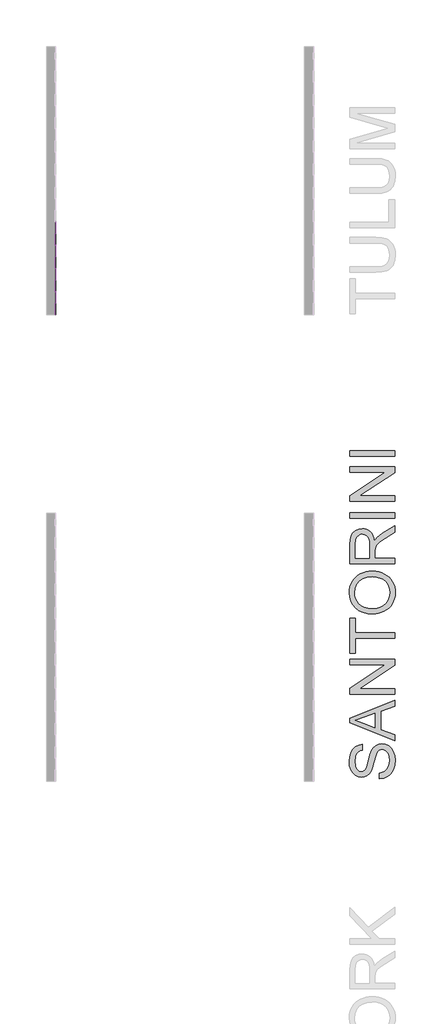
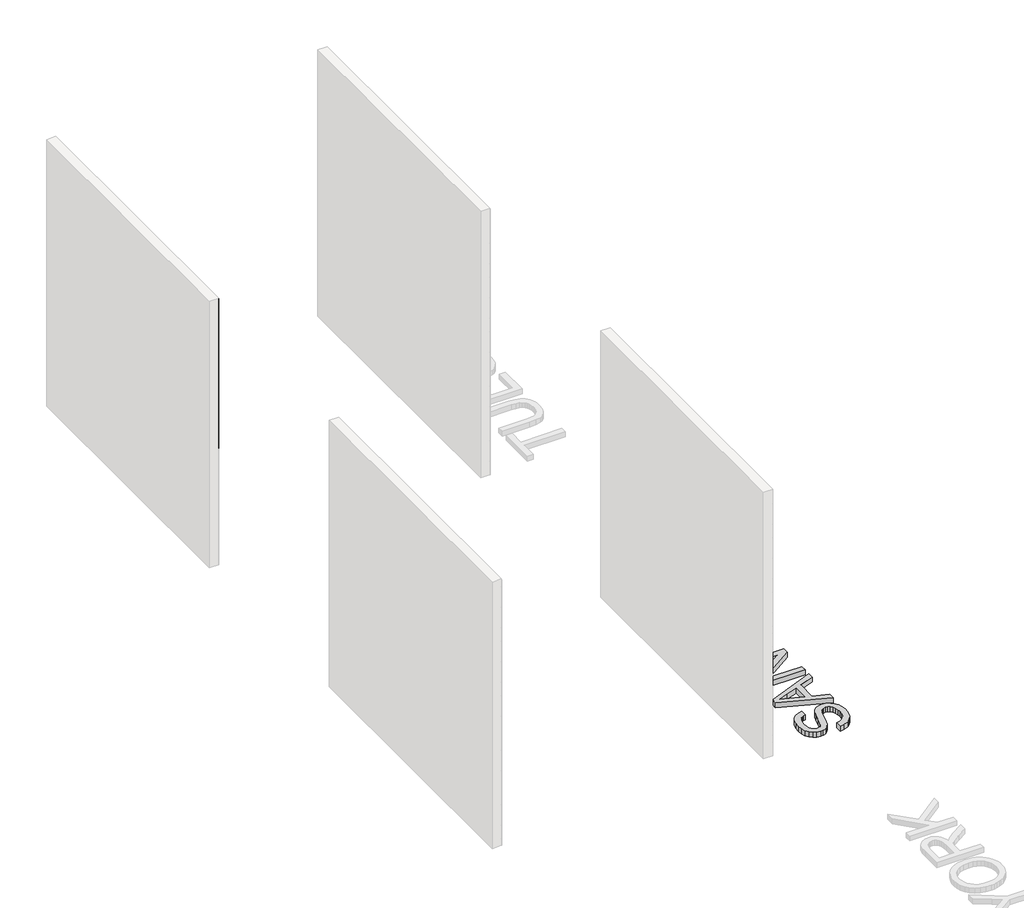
# One storey, part 31 of 45: 120 proxies.
"""IFC4 building model written with IfcOpenShell, lengths in millimetres."""

from ifc_helpers import new_model, si_unit, origin, origin_with_axes, place, context, project, spatial, polyline, outline, extrude, transform, mapped, element, save
from components import generic_models_ab0f2c30

model = new_model("IFC4")

# Units and contexts
model_context = context("Model", 3, world=origin())
ifc_project = project(units=[si_unit("LENGTHUNIT", "METRE", prefix="MILLI")], contexts=[model_context])

# Site, building, storey
site = spatial("IfcSite", under=ifc_project)
building = spatial("IfcBuilding", under=site)
storey = spatial("IfcBuildingStorey", under=building, Name="PORTOBELLO - SHOWROOM", Elevation=0.0)

# Proxies
placement = place(None, origin())
generic_models_shape = generic_models_ab0f2c30(model_context)
element("IfcBuildingElementProxy", 1, Name="PBSHOP - HORIZONTES SANTORINI 6,5X23 : SANTORINI", ObjectType="PBSHOP - HORIZONTES SANTORINI 6,5X23 : SANTORINI", at=placement, inside=storey, context=model_context, shape_type="MappedRepresentation", body=[
    mapped(generic_models_shape, transform((69111.8826867, 12130.0312463, 34.5), x_axis=(0.0, 0.0, 1.0), y_axis=(0.0, -1.0, 0.0), z_axis=(1.0, 0.0, 0.0))),
])
element("IfcBuildingElementProxy", 2, Name="PBSHOP - HORIZONTES SANTORINI 6,5X23 : SANTORINI", ObjectType="PBSHOP - HORIZONTES SANTORINI 6,5X23 : SANTORINI", at=placement, inside=storey, context=model_context, shape_type="MappedRepresentation", body=[
    mapped(generic_models_shape, transform((69111.8826867, 12364.0312463, 34.5), x_axis=(0.0, 0.0, 1.0), y_axis=(0.0, -1.0, 0.0), z_axis=(1.0, 0.0, 0.0))),
])
element("IfcBuildingElementProxy", 3, Name="PBSHOP - HORIZONTES SANTORINI 6,5X23 : SANTORINI", ObjectType="PBSHOP - HORIZONTES SANTORINI 6,5X23 : SANTORINI", at=placement, inside=storey, context=model_context, shape_type="MappedRepresentation", body=[
    mapped(generic_models_shape, transform((69111.8826867, 12598.0312463, 34.5), x_axis=(0.0, 0.0, 1.0), y_axis=(0.0, -1.0, 0.0), z_axis=(1.0, 0.0, 0.0))),
])
element("IfcBuildingElementProxy", 4, Name="PBSHOP - HORIZONTES SANTORINI 6,5X23 : SANTORINI", ObjectType="PBSHOP - HORIZONTES SANTORINI 6,5X23 : SANTORINI", at=placement, inside=storey, context=model_context, shape_type="MappedRepresentation", body=[
    mapped(generic_models_shape, transform((69111.8826867, 12832.0312463, 34.5), x_axis=(0.0, 0.0, 1.0), y_axis=(0.0, -1.0, 0.0), z_axis=(1.0, 0.0, 0.0))),
])
element("IfcBuildingElementProxy", 5, Name="PBSHOP - HORIZONTES SANTORINI 6,5X23 : SANTORINI", ObjectType="PBSHOP - HORIZONTES SANTORINI 6,5X23 : SANTORINI", at=placement, inside=storey, context=model_context, shape_type="MappedRepresentation", body=[
    mapped(generic_models_shape, transform((69111.8826867, 12130.0312463, 103.5), x_axis=(0.0, 0.0, 1.0), y_axis=(0.0, -1.0, 0.0), z_axis=(1.0, 0.0, 0.0))),
])
element("IfcBuildingElementProxy", 6, Name="PBSHOP - HORIZONTES SANTORINI 6,5X23 : SANTORINI", ObjectType="PBSHOP - HORIZONTES SANTORINI 6,5X23 : SANTORINI", at=placement, inside=storey, context=model_context, shape_type="MappedRepresentation", body=[
    mapped(generic_models_shape, transform((69111.8826867, 12364.0312463, 103.5), x_axis=(0.0, 0.0, 1.0), y_axis=(0.0, -1.0, 0.0), z_axis=(1.0, 0.0, 0.0))),
])
element("IfcBuildingElementProxy", 7, Name="PBSHOP - HORIZONTES SANTORINI 6,5X23 : SANTORINI", ObjectType="PBSHOP - HORIZONTES SANTORINI 6,5X23 : SANTORINI", at=placement, inside=storey, context=model_context, shape_type="MappedRepresentation", body=[
    mapped(generic_models_shape, transform((69111.8826867, 12598.0312463, 103.5), x_axis=(0.0, 0.0, 1.0), y_axis=(0.0, -1.0, 0.0), z_axis=(1.0, 0.0, 0.0))),
])
element("IfcBuildingElementProxy", 8, Name="PBSHOP - HORIZONTES SANTORINI 6,5X23 : SANTORINI", ObjectType="PBSHOP - HORIZONTES SANTORINI 6,5X23 : SANTORINI", at=placement, inside=storey, context=model_context, shape_type="MappedRepresentation", body=[
    mapped(generic_models_shape, transform((69111.8826867, 12832.0312463, 103.5), x_axis=(0.0, 0.0, 1.0), y_axis=(0.0, -1.0, 0.0), z_axis=(1.0, 0.0, 0.0))),
])
element("IfcBuildingElementProxy", 9, Name="PBSHOP - HORIZONTES SANTORINI 6,5X23 : SANTORINI", ObjectType="PBSHOP - HORIZONTES SANTORINI 6,5X23 : SANTORINI", at=placement, inside=storey, context=model_context, shape_type="MappedRepresentation", body=[
    mapped(generic_models_shape, transform((69111.8826867, 12130.0312463, 172.5), x_axis=(0.0, 0.0, 1.0), y_axis=(0.0, -1.0, 0.0), z_axis=(1.0, 0.0, 0.0))),
])
element("IfcBuildingElementProxy", 10, Name="PBSHOP - HORIZONTES SANTORINI 6,5X23 : SANTORINI", ObjectType="PBSHOP - HORIZONTES SANTORINI 6,5X23 : SANTORINI", at=placement, inside=storey, context=model_context, shape_type="MappedRepresentation", body=[
    mapped(generic_models_shape, transform((69111.8826867, 12364.0312463, 172.5), x_axis=(0.0, 0.0, 1.0), y_axis=(0.0, -1.0, 0.0), z_axis=(1.0, 0.0, 0.0))),
])
element("IfcBuildingElementProxy", 11, Name="PBSHOP - HORIZONTES SANTORINI 6,5X23 : SANTORINI", ObjectType="PBSHOP - HORIZONTES SANTORINI 6,5X23 : SANTORINI", at=placement, inside=storey, context=model_context, shape_type="MappedRepresentation", body=[
    mapped(generic_models_shape, transform((69111.8826867, 12598.0312463, 172.5), x_axis=(0.0, 0.0, 1.0), y_axis=(0.0, -1.0, 0.0), z_axis=(1.0, 0.0, 0.0))),
])
element("IfcBuildingElementProxy", 12, Name="PBSHOP - HORIZONTES SANTORINI 6,5X23 : SANTORINI", ObjectType="PBSHOP - HORIZONTES SANTORINI 6,5X23 : SANTORINI", at=placement, inside=storey, context=model_context, shape_type="MappedRepresentation", body=[
    mapped(generic_models_shape, transform((69111.8826867, 12832.0312463, 172.5), x_axis=(0.0, 0.0, 1.0), y_axis=(0.0, -1.0, 0.0), z_axis=(1.0, 0.0, 0.0))),
])
element("IfcBuildingElementProxy", 13, Name="PBSHOP - HORIZONTES SANTORINI 6,5X23 : SANTORINI", ObjectType="PBSHOP - HORIZONTES SANTORINI 6,5X23 : SANTORINI", at=placement, inside=storey, context=model_context, shape_type="MappedRepresentation", body=[
    mapped(generic_models_shape, transform((69111.8826867, 12130.0312463, 241.5), x_axis=(0.0, 0.0, 1.0), y_axis=(0.0, -1.0, 0.0), z_axis=(1.0, 0.0, 0.0))),
])
element("IfcBuildingElementProxy", 14, Name="PBSHOP - HORIZONTES SANTORINI 6,5X23 : SANTORINI", ObjectType="PBSHOP - HORIZONTES SANTORINI 6,5X23 : SANTORINI", at=placement, inside=storey, context=model_context, shape_type="MappedRepresentation", body=[
    mapped(generic_models_shape, transform((69111.8826867, 12364.0312463, 241.5), x_axis=(0.0, 0.0, 1.0), y_axis=(0.0, -1.0, 0.0), z_axis=(1.0, 0.0, 0.0))),
])
element("IfcBuildingElementProxy", 15, Name="PBSHOP - HORIZONTES SANTORINI 6,5X23 : SANTORINI", ObjectType="PBSHOP - HORIZONTES SANTORINI 6,5X23 : SANTORINI", at=placement, inside=storey, context=model_context, shape_type="MappedRepresentation", body=[
    mapped(generic_models_shape, transform((69111.8826867, 12598.0312463, 241.5), x_axis=(0.0, 0.0, 1.0), y_axis=(0.0, -1.0, 0.0), z_axis=(1.0, 0.0, 0.0))),
])
element("IfcBuildingElementProxy", 16, Name="PBSHOP - HORIZONTES SANTORINI 6,5X23 : SANTORINI", ObjectType="PBSHOP - HORIZONTES SANTORINI 6,5X23 : SANTORINI", at=placement, inside=storey, context=model_context, shape_type="MappedRepresentation", body=[
    mapped(generic_models_shape, transform((69111.8826867, 12832.0312463, 241.5), x_axis=(0.0, 0.0, 1.0), y_axis=(0.0, -1.0, 0.0), z_axis=(1.0, 0.0, 0.0))),
])
element("IfcBuildingElementProxy", 17, Name="PBSHOP - HORIZONTES SANTORINI 6,5X23 : SANTORINI", ObjectType="PBSHOP - HORIZONTES SANTORINI 6,5X23 : SANTORINI", at=placement, inside=storey, context=model_context, shape_type="MappedRepresentation", body=[
    mapped(generic_models_shape, transform((69111.8826867, 12130.0312463, 310.5), x_axis=(0.0, 0.0, 1.0), y_axis=(0.0, -1.0, 0.0), z_axis=(1.0, 0.0, 0.0))),
])
element("IfcBuildingElementProxy", 18, Name="PBSHOP - HORIZONTES SANTORINI 6,5X23 : SANTORINI", ObjectType="PBSHOP - HORIZONTES SANTORINI 6,5X23 : SANTORINI", at=placement, inside=storey, context=model_context, shape_type="MappedRepresentation", body=[
    mapped(generic_models_shape, transform((69111.8826867, 12364.0312463, 310.5), x_axis=(0.0, 0.0, 1.0), y_axis=(0.0, -1.0, 0.0), z_axis=(1.0, 0.0, 0.0))),
])
element("IfcBuildingElementProxy", 19, Name="PBSHOP - HORIZONTES SANTORINI 6,5X23 : SANTORINI", ObjectType="PBSHOP - HORIZONTES SANTORINI 6,5X23 : SANTORINI", at=placement, inside=storey, context=model_context, shape_type="MappedRepresentation", body=[
    mapped(generic_models_shape, transform((69111.8826867, 12598.0312463, 310.5), x_axis=(0.0, 0.0, 1.0), y_axis=(0.0, -1.0, 0.0), z_axis=(1.0, 0.0, 0.0))),
])
element("IfcBuildingElementProxy", 20, Name="PBSHOP - HORIZONTES SANTORINI 6,5X23 : SANTORINI", ObjectType="PBSHOP - HORIZONTES SANTORINI 6,5X23 : SANTORINI", at=placement, inside=storey, context=model_context, shape_type="MappedRepresentation", body=[
    mapped(generic_models_shape, transform((69111.8826867, 12832.0312463, 310.5), x_axis=(0.0, 0.0, 1.0), y_axis=(0.0, -1.0, 0.0), z_axis=(1.0, 0.0, 0.0))),
])
element("IfcBuildingElementProxy", 21, Name="PBSHOP - HORIZONTES SANTORINI 6,5X23 : SANTORINI", ObjectType="PBSHOP - HORIZONTES SANTORINI 6,5X23 : SANTORINI", at=placement, inside=storey, context=model_context, shape_type="MappedRepresentation", body=[
    mapped(generic_models_shape, transform((69111.8826867, 12130.0312463, 379.5), x_axis=(0.0, 0.0, 1.0), y_axis=(0.0, -1.0, 0.0), z_axis=(1.0, 0.0, 0.0))),
])
element("IfcBuildingElementProxy", 22, Name="PBSHOP - HORIZONTES SANTORINI 6,5X23 : SANTORINI", ObjectType="PBSHOP - HORIZONTES SANTORINI 6,5X23 : SANTORINI", at=placement, inside=storey, context=model_context, shape_type="MappedRepresentation", body=[
    mapped(generic_models_shape, transform((69111.8826867, 12364.0312463, 379.5), x_axis=(0.0, 0.0, 1.0), y_axis=(0.0, -1.0, 0.0), z_axis=(1.0, 0.0, 0.0))),
])
element("IfcBuildingElementProxy", 23, Name="PBSHOP - HORIZONTES SANTORINI 6,5X23 : SANTORINI", ObjectType="PBSHOP - HORIZONTES SANTORINI 6,5X23 : SANTORINI", at=placement, inside=storey, context=model_context, shape_type="MappedRepresentation", body=[
    mapped(generic_models_shape, transform((69111.8826867, 12598.0312463, 379.5), x_axis=(0.0, 0.0, 1.0), y_axis=(0.0, -1.0, 0.0), z_axis=(1.0, 0.0, 0.0))),
])
element("IfcBuildingElementProxy", 24, Name="PBSHOP - HORIZONTES SANTORINI 6,5X23 : SANTORINI", ObjectType="PBSHOP - HORIZONTES SANTORINI 6,5X23 : SANTORINI", at=placement, inside=storey, context=model_context, shape_type="MappedRepresentation", body=[
    mapped(generic_models_shape, transform((69111.8826867, 12832.0312463, 379.5), x_axis=(0.0, 0.0, 1.0), y_axis=(0.0, -1.0, 0.0), z_axis=(1.0, 0.0, 0.0))),
])
element("IfcBuildingElementProxy", 25, Name="PBSHOP - HORIZONTES SANTORINI 6,5X23 : SANTORINI", ObjectType="PBSHOP - HORIZONTES SANTORINI 6,5X23 : SANTORINI", at=placement, inside=storey, context=model_context, shape_type="MappedRepresentation", body=[
    mapped(generic_models_shape, transform((69111.8826867, 12130.0312463, 448.5), x_axis=(0.0, 0.0, 1.0), y_axis=(0.0, -1.0, 0.0), z_axis=(1.0, 0.0, 0.0))),
])
element("IfcBuildingElementProxy", 26, Name="PBSHOP - HORIZONTES SANTORINI 6,5X23 : SANTORINI", ObjectType="PBSHOP - HORIZONTES SANTORINI 6,5X23 : SANTORINI", at=placement, inside=storey, context=model_context, shape_type="MappedRepresentation", body=[
    mapped(generic_models_shape, transform((69111.8826867, 12364.0312463, 448.5), x_axis=(0.0, 0.0, 1.0), y_axis=(0.0, -1.0, 0.0), z_axis=(1.0, 0.0, 0.0))),
])
element("IfcBuildingElementProxy", 27, Name="PBSHOP - HORIZONTES SANTORINI 6,5X23 : SANTORINI", ObjectType="PBSHOP - HORIZONTES SANTORINI 6,5X23 : SANTORINI", at=placement, inside=storey, context=model_context, shape_type="MappedRepresentation", body=[
    mapped(generic_models_shape, transform((69111.8826867, 12598.0312463, 448.5), x_axis=(0.0, 0.0, 1.0), y_axis=(0.0, -1.0, 0.0), z_axis=(1.0, 0.0, 0.0))),
])
element("IfcBuildingElementProxy", 28, Name="PBSHOP - HORIZONTES SANTORINI 6,5X23 : SANTORINI", ObjectType="PBSHOP - HORIZONTES SANTORINI 6,5X23 : SANTORINI", at=placement, inside=storey, context=model_context, shape_type="MappedRepresentation", body=[
    mapped(generic_models_shape, transform((69111.8826867, 12832.0312463, 448.5), x_axis=(0.0, 0.0, 1.0), y_axis=(0.0, -1.0, 0.0), z_axis=(1.0, 0.0, 0.0))),
])
element("IfcBuildingElementProxy", 29, Name="PBSHOP - HORIZONTES SANTORINI 6,5X23 : SANTORINI", ObjectType="PBSHOP - HORIZONTES SANTORINI 6,5X23 : SANTORINI", at=placement, inside=storey, context=model_context, shape_type="MappedRepresentation", body=[
    mapped(generic_models_shape, transform((69111.8826867, 12130.0312463, 517.5), x_axis=(0.0, 0.0, 1.0), y_axis=(0.0, -1.0, 0.0), z_axis=(1.0, 0.0, 0.0))),
])
element("IfcBuildingElementProxy", 30, Name="PBSHOP - HORIZONTES TULUM 6,5X23 : TULUM AGAVE", ObjectType="PBSHOP - HORIZONTES TULUM 6,5X23 : TULUM AGAVE", at=placement, inside=storey, context=model_context, shape_type="MappedRepresentation", body=[
    mapped(generic_models_shape, transform((66511.8826867, 15654.0588567, 1138.5), x_axis=(0.0, 0.0, 1.0), y_axis=(0.0, -1.0, 0.0), z_axis=(1.0, 0.0, 0.0))),
])
element("IfcBuildingElementProxy", 31, Name="PBSHOP - HORIZONTES TULUM 6,5X23 : TULUM AGAVE", ObjectType="PBSHOP - HORIZONTES TULUM 6,5X23 : TULUM AGAVE", at=placement, inside=storey, context=model_context, shape_type="MappedRepresentation", body=[
    mapped(generic_models_shape, transform((66511.8826867, 15888.0588567, 1138.5), x_axis=(0.0, 0.0, 1.0), y_axis=(0.0, -1.0, 0.0), z_axis=(1.0, 0.0, 0.0))),
])
element("IfcBuildingElementProxy", 32, Name="PBSHOP - HORIZONTES TULUM 6,5X23 : TULUM AGAVE", ObjectType="PBSHOP - HORIZONTES TULUM 6,5X23 : TULUM AGAVE", at=placement, inside=storey, context=model_context, shape_type="MappedRepresentation", body=[
    mapped(generic_models_shape, transform((66511.8826867, 15186.0588567, 1207.5), x_axis=(0.0, 0.0, 1.0), y_axis=(0.0, -1.0, 0.0), z_axis=(1.0, 0.0, 0.0))),
])
element("IfcBuildingElementProxy", 33, Name="PBSHOP - HORIZONTES TULUM 6,5X23 : TULUM AGAVE", ObjectType="PBSHOP - HORIZONTES TULUM 6,5X23 : TULUM AGAVE", at=placement, inside=storey, context=model_context, shape_type="MappedRepresentation", body=[
    mapped(generic_models_shape, transform((66511.8826867, 15420.0588567, 1207.5), x_axis=(0.0, 0.0, 1.0), y_axis=(0.0, -1.0, 0.0), z_axis=(1.0, 0.0, 0.0))),
])
element("IfcBuildingElementProxy", 34, Name="PBSHOP - HORIZONTES TULUM 6,5X23 : TULUM AGAVE", ObjectType="PBSHOP - HORIZONTES TULUM 6,5X23 : TULUM AGAVE", at=placement, inside=storey, context=model_context, shape_type="MappedRepresentation", body=[
    mapped(generic_models_shape, transform((66511.8826867, 15654.0588567, 1207.5), x_axis=(0.0, 0.0, 1.0), y_axis=(0.0, -1.0, 0.0), z_axis=(1.0, 0.0, 0.0))),
])
element("IfcBuildingElementProxy", 35, Name="PBSHOP - HORIZONTES TULUM 6,5X23 : TULUM AGAVE", ObjectType="PBSHOP - HORIZONTES TULUM 6,5X23 : TULUM AGAVE", at=placement, inside=storey, context=model_context, shape_type="MappedRepresentation", body=[
    mapped(generic_models_shape, transform((66511.8826867, 15888.0588567, 1207.5), x_axis=(0.0, 0.0, 1.0), y_axis=(0.0, -1.0, 0.0), z_axis=(1.0, 0.0, 0.0))),
])
element("IfcBuildingElementProxy", 36, Name="PBSHOP - HORIZONTES TULUM 6,5X23 : TULUM AGAVE", ObjectType="PBSHOP - HORIZONTES TULUM 6,5X23 : TULUM AGAVE", at=placement, inside=storey, context=model_context, shape_type="MappedRepresentation", body=[
    mapped(generic_models_shape, transform((66511.8826867, 15186.0588567, 1276.5), x_axis=(0.0, 0.0, 1.0), y_axis=(0.0, -1.0, 0.0), z_axis=(1.0, 0.0, 0.0))),
])
element("IfcBuildingElementProxy", 37, Name="PBSHOP - HORIZONTES TULUM 6,5X23 : TULUM AGAVE", ObjectType="PBSHOP - HORIZONTES TULUM 6,5X23 : TULUM AGAVE", at=placement, inside=storey, context=model_context, shape_type="MappedRepresentation", body=[
    mapped(generic_models_shape, transform((66511.8826867, 15420.0588567, 1276.5), x_axis=(0.0, 0.0, 1.0), y_axis=(0.0, -1.0, 0.0), z_axis=(1.0, 0.0, 0.0))),
])
element("IfcBuildingElementProxy", 38, Name="PBSHOP - HORIZONTES TULUM 6,5X23 : TULUM AGAVE", ObjectType="PBSHOP - HORIZONTES TULUM 6,5X23 : TULUM AGAVE", at=placement, inside=storey, context=model_context, shape_type="MappedRepresentation", body=[
    mapped(generic_models_shape, transform((66511.8826867, 15654.0588567, 1276.5), x_axis=(0.0, 0.0, 1.0), y_axis=(0.0, -1.0, 0.0), z_axis=(1.0, 0.0, 0.0))),
])
element("IfcBuildingElementProxy", 39, Name="PBSHOP - HORIZONTES TULUM 6,5X23 : TULUM AGAVE", ObjectType="PBSHOP - HORIZONTES TULUM 6,5X23 : TULUM AGAVE", at=placement, inside=storey, context=model_context, shape_type="MappedRepresentation", body=[
    mapped(generic_models_shape, transform((66511.8826867, 15888.0588567, 1276.5), x_axis=(0.0, 0.0, 1.0), y_axis=(0.0, -1.0, 0.0), z_axis=(1.0, 0.0, 0.0))),
])
element("IfcBuildingElementProxy", 40, Name="PBSHOP - HORIZONTES TULUM 6,5X23 : TULUM AGAVE", ObjectType="PBSHOP - HORIZONTES TULUM 6,5X23 : TULUM AGAVE", at=placement, inside=storey, context=model_context, shape_type="MappedRepresentation", body=[
    mapped(generic_models_shape, transform((66511.8826867, 15186.0588567, 1345.5), x_axis=(0.0, 0.0, 1.0), y_axis=(0.0, -1.0, 0.0), z_axis=(1.0, 0.0, 0.0))),
])
element("IfcBuildingElementProxy", 41, Name="PBSHOP - HORIZONTES TULUM 6,5X23 : TULUM AGAVE", ObjectType="PBSHOP - HORIZONTES TULUM 6,5X23 : TULUM AGAVE", at=placement, inside=storey, context=model_context, shape_type="MappedRepresentation", body=[
    mapped(generic_models_shape, transform((66511.8826867, 15420.0588567, 1345.5), x_axis=(0.0, 0.0, 1.0), y_axis=(0.0, -1.0, 0.0), z_axis=(1.0, 0.0, 0.0))),
])
element("IfcBuildingElementProxy", 42, Name="PBSHOP - HORIZONTES TULUM 6,5X23 : TULUM AGAVE", ObjectType="PBSHOP - HORIZONTES TULUM 6,5X23 : TULUM AGAVE", at=placement, inside=storey, context=model_context, shape_type="MappedRepresentation", body=[
    mapped(generic_models_shape, transform((66511.8826867, 15654.0588567, 1345.5), x_axis=(0.0, 0.0, 1.0), y_axis=(0.0, -1.0, 0.0), z_axis=(1.0, 0.0, 0.0))),
])
element("IfcBuildingElementProxy", 43, Name="PBSHOP - HORIZONTES TULUM 6,5X23 : TULUM AGAVE", ObjectType="PBSHOP - HORIZONTES TULUM 6,5X23 : TULUM AGAVE", at=placement, inside=storey, context=model_context, shape_type="MappedRepresentation", body=[
    mapped(generic_models_shape, transform((66511.8826867, 15888.0588567, 1345.5), x_axis=(0.0, 0.0, 1.0), y_axis=(0.0, -1.0, 0.0), z_axis=(1.0, 0.0, 0.0))),
])
element("IfcBuildingElementProxy", 44, Name="PBSHOP - HORIZONTES TULUM 6,5X23 : TULUM AGAVE", ObjectType="PBSHOP - HORIZONTES TULUM 6,5X23 : TULUM AGAVE", at=placement, inside=storey, context=model_context, shape_type="MappedRepresentation", body=[
    mapped(generic_models_shape, transform((66511.8826867, 15186.0588567, 1414.5), x_axis=(0.0, 0.0, 1.0), y_axis=(0.0, -1.0, 0.0), z_axis=(1.0, 0.0, 0.0))),
])
element("IfcBuildingElementProxy", 45, Name="PBSHOP - HORIZONTES TULUM 6,5X23 : TULUM AGAVE", ObjectType="PBSHOP - HORIZONTES TULUM 6,5X23 : TULUM AGAVE", at=placement, inside=storey, context=model_context, shape_type="MappedRepresentation", body=[
    mapped(generic_models_shape, transform((66511.8826867, 15420.0588567, 1414.5), x_axis=(0.0, 0.0, 1.0), y_axis=(0.0, -1.0, 0.0), z_axis=(1.0, 0.0, 0.0))),
])
element("IfcBuildingElementProxy", 46, Name="PBSHOP - HORIZONTES TULUM 6,5X23 : TULUM AGAVE", ObjectType="PBSHOP - HORIZONTES TULUM 6,5X23 : TULUM AGAVE", at=placement, inside=storey, context=model_context, shape_type="MappedRepresentation", body=[
    mapped(generic_models_shape, transform((66511.8826867, 15654.0588567, 1414.5), x_axis=(0.0, 0.0, 1.0), y_axis=(0.0, -1.0, 0.0), z_axis=(1.0, 0.0, 0.0))),
])
element("IfcBuildingElementProxy", 47, Name="PBSHOP - HORIZONTES TULUM 6,5X23 : TULUM AGAVE", ObjectType="PBSHOP - HORIZONTES TULUM 6,5X23 : TULUM AGAVE", at=placement, inside=storey, context=model_context, shape_type="MappedRepresentation", body=[
    mapped(generic_models_shape, transform((66511.8826867, 15888.0588567, 1414.5), x_axis=(0.0, 0.0, 1.0), y_axis=(0.0, -1.0, 0.0), z_axis=(1.0, 0.0, 0.0))),
])
element("IfcBuildingElementProxy", 48, Name="PBSHOP - HORIZONTES TULUM 6,5X23 : TULUM AGAVE", ObjectType="PBSHOP - HORIZONTES TULUM 6,5X23 : TULUM AGAVE", at=placement, inside=storey, context=model_context, shape_type="MappedRepresentation", body=[
    mapped(generic_models_shape, transform((66511.8826867, 15186.0588567, 1483.5), x_axis=(0.0, 0.0, 1.0), y_axis=(0.0, -1.0, 0.0), z_axis=(1.0, 0.0, 0.0))),
])
element("IfcBuildingElementProxy", 49, Name="PBSHOP - HORIZONTES TULUM 6,5X23 : TULUM AGAVE", ObjectType="PBSHOP - HORIZONTES TULUM 6,5X23 : TULUM AGAVE", at=placement, inside=storey, context=model_context, shape_type="MappedRepresentation", body=[
    mapped(generic_models_shape, transform((66511.8826867, 15420.0588567, 1483.5), x_axis=(0.0, 0.0, 1.0), y_axis=(0.0, -1.0, 0.0), z_axis=(1.0, 0.0, 0.0))),
])
element("IfcBuildingElementProxy", 50, Name="PBSHOP - HORIZONTES TULUM 6,5X23 : TULUM AGAVE", ObjectType="PBSHOP - HORIZONTES TULUM 6,5X23 : TULUM AGAVE", at=placement, inside=storey, context=model_context, shape_type="MappedRepresentation", body=[
    mapped(generic_models_shape, transform((66511.8826867, 15654.0588567, 1483.5), x_axis=(0.0, 0.0, 1.0), y_axis=(0.0, -1.0, 0.0), z_axis=(1.0, 0.0, 0.0))),
])
element("IfcBuildingElementProxy", 51, Name="PBSHOP - HORIZONTES TULUM 6,5X23 : TULUM AGAVE", ObjectType="PBSHOP - HORIZONTES TULUM 6,5X23 : TULUM AGAVE", at=placement, inside=storey, context=model_context, shape_type="MappedRepresentation", body=[
    mapped(generic_models_shape, transform((66511.8826867, 15888.0588567, 1483.5), x_axis=(0.0, 0.0, 1.0), y_axis=(0.0, -1.0, 0.0), z_axis=(1.0, 0.0, 0.0))),
])
element("IfcBuildingElementProxy", 52, Name="PBSHOP - HORIZONTES TULUM 6,5X23 : TULUM AGAVE", ObjectType="PBSHOP - HORIZONTES TULUM 6,5X23 : TULUM AGAVE", at=placement, inside=storey, context=model_context, shape_type="MappedRepresentation", body=[
    mapped(generic_models_shape, transform((66511.8826867, 15186.0588567, 1552.5), x_axis=(0.0, 0.0, 1.0), y_axis=(0.0, -1.0, 0.0), z_axis=(1.0, 0.0, 0.0))),
])
element("IfcBuildingElementProxy", 53, Name="PBSHOP - HORIZONTES TULUM 6,5X23 : TULUM AGAVE", ObjectType="PBSHOP - HORIZONTES TULUM 6,5X23 : TULUM AGAVE", at=placement, inside=storey, context=model_context, shape_type="MappedRepresentation", body=[
    mapped(generic_models_shape, transform((66511.8826867, 15420.0588567, 1552.5), x_axis=(0.0, 0.0, 1.0), y_axis=(0.0, -1.0, 0.0), z_axis=(1.0, 0.0, 0.0))),
])
element("IfcBuildingElementProxy", 54, Name="PBSHOP - HORIZONTES TULUM 6,5X23 : TULUM AGAVE", ObjectType="PBSHOP - HORIZONTES TULUM 6,5X23 : TULUM AGAVE", at=placement, inside=storey, context=model_context, shape_type="MappedRepresentation", body=[
    mapped(generic_models_shape, transform((66511.8826867, 15654.0588567, 1552.5), x_axis=(0.0, 0.0, 1.0), y_axis=(0.0, -1.0, 0.0), z_axis=(1.0, 0.0, 0.0))),
])
element("IfcBuildingElementProxy", 55, Name="PBSHOP - HORIZONTES TULUM 6,5X23 : TULUM AGAVE", ObjectType="PBSHOP - HORIZONTES TULUM 6,5X23 : TULUM AGAVE", at=placement, inside=storey, context=model_context, shape_type="MappedRepresentation", body=[
    mapped(generic_models_shape, transform((66511.8826867, 15888.0588567, 1552.5), x_axis=(0.0, 0.0, 1.0), y_axis=(0.0, -1.0, 0.0), z_axis=(1.0, 0.0, 0.0))),
])
element("IfcBuildingElementProxy", 56, Name="PBSHOP - HORIZONTES TULUM 6,5X23 : TULUM AGAVE", ObjectType="PBSHOP - HORIZONTES TULUM 6,5X23 : TULUM AGAVE", at=placement, inside=storey, context=model_context, shape_type="MappedRepresentation", body=[
    mapped(generic_models_shape, transform((66511.8826867, 15186.0588567, 1621.5), x_axis=(0.0, 0.0, 1.0), y_axis=(0.0, -1.0, 0.0), z_axis=(1.0, 0.0, 0.0))),
])
element("IfcBuildingElementProxy", 57, Name="PBSHOP - HORIZONTES TULUM 6,5X23 : TULUM AGAVE", ObjectType="PBSHOP - HORIZONTES TULUM 6,5X23 : TULUM AGAVE", at=placement, inside=storey, context=model_context, shape_type="MappedRepresentation", body=[
    mapped(generic_models_shape, transform((66511.8826867, 15420.0588567, 1621.5), x_axis=(0.0, 0.0, 1.0), y_axis=(0.0, -1.0, 0.0), z_axis=(1.0, 0.0, 0.0))),
])
element("IfcBuildingElementProxy", 58, Name="PBSHOP - HORIZONTES TULUM 6,5X23 : TULUM AGAVE", ObjectType="PBSHOP - HORIZONTES TULUM 6,5X23 : TULUM AGAVE", at=placement, inside=storey, context=model_context, shape_type="MappedRepresentation", body=[
    mapped(generic_models_shape, transform((66511.8826867, 15654.0588567, 1621.5), x_axis=(0.0, 0.0, 1.0), y_axis=(0.0, -1.0, 0.0), z_axis=(1.0, 0.0, 0.0))),
])
element("IfcBuildingElementProxy", 59, Name="PBSHOP - HORIZONTES TULUM 6,5X23 : TULUM AGAVE", ObjectType="PBSHOP - HORIZONTES TULUM 6,5X23 : TULUM AGAVE", at=placement, inside=storey, context=model_context, shape_type="MappedRepresentation", body=[
    mapped(generic_models_shape, transform((66511.8826867, 15888.0588567, 1621.5), x_axis=(0.0, 0.0, 1.0), y_axis=(0.0, -1.0, 0.0), z_axis=(1.0, 0.0, 0.0))),
])
element("IfcBuildingElementProxy", 60, Name="PBSHOP - HORIZONTES TULUM 6,5X23 : TULUM AGAVE", ObjectType="PBSHOP - HORIZONTES TULUM 6,5X23 : TULUM AGAVE", at=placement, inside=storey, context=model_context, shape_type="MappedRepresentation", body=[
    mapped(generic_models_shape, transform((66511.8826867, 15186.0588567, 1690.5), x_axis=(0.0, 0.0, 1.0), y_axis=(0.0, -1.0, 0.0), z_axis=(1.0, 0.0, 0.0))),
])
element("IfcBuildingElementProxy", 61, Name="PBSHOP - HORIZONTES TULUM 6,5X23 : TULUM AGAVE", ObjectType="PBSHOP - HORIZONTES TULUM 6,5X23 : TULUM AGAVE", at=placement, inside=storey, context=model_context, shape_type="MappedRepresentation", body=[
    mapped(generic_models_shape, transform((66511.8826867, 15420.0588567, 1690.5), x_axis=(0.0, 0.0, 1.0), y_axis=(0.0, -1.0, 0.0), z_axis=(1.0, 0.0, 0.0))),
])
element("IfcBuildingElementProxy", 62, Name="PBSHOP - HORIZONTES TULUM 6,5X23 : TULUM AGAVE", ObjectType="PBSHOP - HORIZONTES TULUM 6,5X23 : TULUM AGAVE", at=placement, inside=storey, context=model_context, shape_type="MappedRepresentation", body=[
    mapped(generic_models_shape, transform((66511.8826867, 15654.0588567, 1690.5), x_axis=(0.0, 0.0, 1.0), y_axis=(0.0, -1.0, 0.0), z_axis=(1.0, 0.0, 0.0))),
])
element("IfcBuildingElementProxy", 63, Name="PBSHOP - HORIZONTES TULUM 6,5X23 : TULUM AGAVE", ObjectType="PBSHOP - HORIZONTES TULUM 6,5X23 : TULUM AGAVE", at=placement, inside=storey, context=model_context, shape_type="MappedRepresentation", body=[
    mapped(generic_models_shape, transform((66511.8826867, 15888.0588567, 1690.5), x_axis=(0.0, 0.0, 1.0), y_axis=(0.0, -1.0, 0.0), z_axis=(1.0, 0.0, 0.0))),
])
element("IfcBuildingElementProxy", 64, Name="PBSHOP - HORIZONTES TULUM 6,5X23 : TULUM AGAVE", ObjectType="PBSHOP - HORIZONTES TULUM 6,5X23 : TULUM AGAVE", at=placement, inside=storey, context=model_context, shape_type="MappedRepresentation", body=[
    mapped(generic_models_shape, transform((66511.8826867, 15186.0588567, 1759.5), x_axis=(0.0, 0.0, 1.0), y_axis=(0.0, -1.0, 0.0), z_axis=(1.0, 0.0, 0.0))),
])
element("IfcBuildingElementProxy", 65, Name="PBSHOP - HORIZONTES TULUM 6,5X23 : TULUM AGAVE", ObjectType="PBSHOP - HORIZONTES TULUM 6,5X23 : TULUM AGAVE", at=placement, inside=storey, context=model_context, shape_type="MappedRepresentation", body=[
    mapped(generic_models_shape, transform((66511.8826867, 15420.0588567, 1759.5), x_axis=(0.0, 0.0, 1.0), y_axis=(0.0, -1.0, 0.0), z_axis=(1.0, 0.0, 0.0))),
])
element("IfcBuildingElementProxy", 66, Name="PBSHOP - HORIZONTES TULUM 6,5X23 : TULUM AGAVE", ObjectType="PBSHOP - HORIZONTES TULUM 6,5X23 : TULUM AGAVE", at=placement, inside=storey, context=model_context, shape_type="MappedRepresentation", body=[
    mapped(generic_models_shape, transform((66511.8826867, 15654.0588567, 1759.5), x_axis=(0.0, 0.0, 1.0), y_axis=(0.0, -1.0, 0.0), z_axis=(1.0, 0.0, 0.0))),
])
element("IfcBuildingElementProxy", 67, Name="PBSHOP - HORIZONTES TULUM 6,5X23 : TULUM AGAVE", ObjectType="PBSHOP - HORIZONTES TULUM 6,5X23 : TULUM AGAVE", at=placement, inside=storey, context=model_context, shape_type="MappedRepresentation", body=[
    mapped(generic_models_shape, transform((66511.8826867, 15888.0588567, 1759.5), x_axis=(0.0, 0.0, 1.0), y_axis=(0.0, -1.0, 0.0), z_axis=(1.0, 0.0, 0.0))),
])
element("IfcBuildingElementProxy", 68, Name="PBSHOP - HORIZONTES TULUM 6,5X23 : TULUM AGAVE", ObjectType="PBSHOP - HORIZONTES TULUM 6,5X23 : TULUM AGAVE", at=placement, inside=storey, context=model_context, shape_type="MappedRepresentation", body=[
    mapped(generic_models_shape, transform((66511.8826867, 15186.0588567, 1828.5), x_axis=(0.0, 0.0, 1.0), y_axis=(0.0, -1.0, 0.0), z_axis=(1.0, 0.0, 0.0))),
])
element("IfcBuildingElementProxy", 69, Name="PBSHOP - HORIZONTES TULUM 6,5X23 : TULUM AGAVE", ObjectType="PBSHOP - HORIZONTES TULUM 6,5X23 : TULUM AGAVE", at=placement, inside=storey, context=model_context, shape_type="MappedRepresentation", body=[
    mapped(generic_models_shape, transform((66511.8826867, 15420.0588567, 1828.5), x_axis=(0.0, 0.0, 1.0), y_axis=(0.0, -1.0, 0.0), z_axis=(1.0, 0.0, 0.0))),
])
element("IfcBuildingElementProxy", 70, Name="PBSHOP - HORIZONTES TULUM 6,5X23 : TULUM AGAVE", ObjectType="PBSHOP - HORIZONTES TULUM 6,5X23 : TULUM AGAVE", at=placement, inside=storey, context=model_context, shape_type="MappedRepresentation", body=[
    mapped(generic_models_shape, transform((66511.8826867, 15654.0588567, 1828.5), x_axis=(0.0, 0.0, 1.0), y_axis=(0.0, -1.0, 0.0), z_axis=(1.0, 0.0, 0.0))),
])
element("IfcBuildingElementProxy", 71, Name="PBSHOP - HORIZONTES TULUM 6,5X23 : TULUM AGAVE", ObjectType="PBSHOP - HORIZONTES TULUM 6,5X23 : TULUM AGAVE", at=placement, inside=storey, context=model_context, shape_type="MappedRepresentation", body=[
    mapped(generic_models_shape, transform((66511.8826867, 15888.0588567, 1828.5), x_axis=(0.0, 0.0, 1.0), y_axis=(0.0, -1.0, 0.0), z_axis=(1.0, 0.0, 0.0))),
])
element("IfcBuildingElementProxy", 72, Name="PBSHOP - HORIZONTES TULUM 6,5X23 : TULUM AGAVE", ObjectType="PBSHOP - HORIZONTES TULUM 6,5X23 : TULUM AGAVE", at=placement, inside=storey, context=model_context, shape_type="MappedRepresentation", body=[
    mapped(generic_models_shape, transform((66511.8826867, 15186.0588567, 1897.5), x_axis=(0.0, 0.0, 1.0), y_axis=(0.0, -1.0, 0.0), z_axis=(1.0, 0.0, 0.0))),
])
element("IfcBuildingElementProxy", 73, Name="PBSHOP - HORIZONTES TULUM 6,5X23 : TULUM AGAVE", ObjectType="PBSHOP - HORIZONTES TULUM 6,5X23 : TULUM AGAVE", at=placement, inside=storey, context=model_context, shape_type="MappedRepresentation", body=[
    mapped(generic_models_shape, transform((66511.8826867, 15420.0588567, 1897.5), x_axis=(0.0, 0.0, 1.0), y_axis=(0.0, -1.0, 0.0), z_axis=(1.0, 0.0, 0.0))),
])
element("IfcBuildingElementProxy", 74, Name="PBSHOP - HORIZONTES TULUM 6,5X23 : TULUM AGAVE", ObjectType="PBSHOP - HORIZONTES TULUM 6,5X23 : TULUM AGAVE", at=placement, inside=storey, context=model_context, shape_type="MappedRepresentation", body=[
    mapped(generic_models_shape, transform((66511.8826867, 15654.0588567, 1897.5), x_axis=(0.0, 0.0, 1.0), y_axis=(0.0, -1.0, 0.0), z_axis=(1.0, 0.0, 0.0))),
])
element("IfcBuildingElementProxy", 75, Name="PBSHOP - HORIZONTES TULUM 6,5X23 : TULUM AGAVE", ObjectType="PBSHOP - HORIZONTES TULUM 6,5X23 : TULUM AGAVE", at=placement, inside=storey, context=model_context, shape_type="MappedRepresentation", body=[
    mapped(generic_models_shape, transform((66511.8826867, 15888.0588567, 1897.5), x_axis=(0.0, 0.0, 1.0), y_axis=(0.0, -1.0, 0.0), z_axis=(1.0, 0.0, 0.0))),
])
element("IfcBuildingElementProxy", 76, Name="PBSHOP - HORIZONTES TULUM 6,5X23 : TULUM AGAVE", ObjectType="PBSHOP - HORIZONTES TULUM 6,5X23 : TULUM AGAVE", at=placement, inside=storey, context=model_context, shape_type="MappedRepresentation", body=[
    mapped(generic_models_shape, transform((66511.8826867, 15186.0588567, 1966.5), x_axis=(0.0, 0.0, 1.0), y_axis=(0.0, -1.0, 0.0), z_axis=(1.0, 0.0, 0.0))),
])
element("IfcBuildingElementProxy", 77, Name="PBSHOP - HORIZONTES TULUM 6,5X23 : TULUM AGAVE", ObjectType="PBSHOP - HORIZONTES TULUM 6,5X23 : TULUM AGAVE", at=placement, inside=storey, context=model_context, shape_type="MappedRepresentation", body=[
    mapped(generic_models_shape, transform((66511.8826867, 15420.0588567, 1966.5), x_axis=(0.0, 0.0, 1.0), y_axis=(0.0, -1.0, 0.0), z_axis=(1.0, 0.0, 0.0))),
])
element("IfcBuildingElementProxy", 78, Name="PBSHOP - HORIZONTES TULUM 6,5X23 : TULUM AGAVE", ObjectType="PBSHOP - HORIZONTES TULUM 6,5X23 : TULUM AGAVE", at=placement, inside=storey, context=model_context, shape_type="MappedRepresentation", body=[
    mapped(generic_models_shape, transform((66511.8826867, 15654.0588567, 1966.5), x_axis=(0.0, 0.0, 1.0), y_axis=(0.0, -1.0, 0.0), z_axis=(1.0, 0.0, 0.0))),
])
element("IfcBuildingElementProxy", 79, Name="PBSHOP - HORIZONTES TULUM 6,5X23 : TULUM AGAVE", ObjectType="PBSHOP - HORIZONTES TULUM 6,5X23 : TULUM AGAVE", at=placement, inside=storey, context=model_context, shape_type="MappedRepresentation", body=[
    mapped(generic_models_shape, transform((66511.8826867, 15888.0588567, 1966.5), x_axis=(0.0, 0.0, 1.0), y_axis=(0.0, -1.0, 0.0), z_axis=(1.0, 0.0, 0.0))),
])
element("IfcBuildingElementProxy", 80, Name="PBSHOP - HORIZONTES TULUM 6,5X23 : TULUM AGAVE", ObjectType="PBSHOP - HORIZONTES TULUM 6,5X23 : TULUM AGAVE", at=placement, inside=storey, context=model_context, shape_type="MappedRepresentation", body=[
    mapped(generic_models_shape, transform((66511.8826867, 15186.0588567, 2035.5), x_axis=(0.0, 0.0, 1.0), y_axis=(0.0, -1.0, 0.0), z_axis=(1.0, 0.0, 0.0))),
])
element("IfcBuildingElementProxy", 81, Name="PBSHOP - HORIZONTES TULUM 6,5X23 : TULUM AGAVE", ObjectType="PBSHOP - HORIZONTES TULUM 6,5X23 : TULUM AGAVE", at=placement, inside=storey, context=model_context, shape_type="MappedRepresentation", body=[
    mapped(generic_models_shape, transform((66511.8826867, 15420.0588567, 2035.5), x_axis=(0.0, 0.0, 1.0), y_axis=(0.0, -1.0, 0.0), z_axis=(1.0, 0.0, 0.0))),
])
element("IfcBuildingElementProxy", 82, Name="PBSHOP - HORIZONTES TULUM 6,5X23 : TULUM AGAVE", ObjectType="PBSHOP - HORIZONTES TULUM 6,5X23 : TULUM AGAVE", at=placement, inside=storey, context=model_context, shape_type="MappedRepresentation", body=[
    mapped(generic_models_shape, transform((66511.8826867, 15654.0588567, 2035.5), x_axis=(0.0, 0.0, 1.0), y_axis=(0.0, -1.0, 0.0), z_axis=(1.0, 0.0, 0.0))),
])
element("IfcBuildingElementProxy", 83, Name="PBSHOP - HORIZONTES TULUM 6,5X23 : TULUM AGAVE", ObjectType="PBSHOP - HORIZONTES TULUM 6,5X23 : TULUM AGAVE", at=placement, inside=storey, context=model_context, shape_type="MappedRepresentation", body=[
    mapped(generic_models_shape, transform((66511.8826867, 15888.0588567, 2035.5), x_axis=(0.0, 0.0, 1.0), y_axis=(0.0, -1.0, 0.0), z_axis=(1.0, 0.0, 0.0))),
])
element("IfcBuildingElementProxy", 84, Name="PBSHOP - HORIZONTES TULUM 6,5X23 : TULUM AGAVE", ObjectType="PBSHOP - HORIZONTES TULUM 6,5X23 : TULUM AGAVE", at=placement, inside=storey, context=model_context, shape_type="MappedRepresentation", body=[
    mapped(generic_models_shape, transform((66511.8826867, 15186.0588567, 2104.5), x_axis=(0.0, 0.0, 1.0), y_axis=(0.0, -1.0, 0.0), z_axis=(1.0, 0.0, 0.0))),
])
element("IfcBuildingElementProxy", 85, Name="PBSHOP - HORIZONTES TULUM 6,5X23 : TULUM AGAVE", ObjectType="PBSHOP - HORIZONTES TULUM 6,5X23 : TULUM AGAVE", at=placement, inside=storey, context=model_context, shape_type="MappedRepresentation", body=[
    mapped(generic_models_shape, transform((66511.8826867, 15420.0588567, 2104.5), x_axis=(0.0, 0.0, 1.0), y_axis=(0.0, -1.0, 0.0), z_axis=(1.0, 0.0, 0.0))),
])
element("IfcBuildingElementProxy", 86, Name="PBSHOP - HORIZONTES TULUM 6,5X23 : TULUM AGAVE", ObjectType="PBSHOP - HORIZONTES TULUM 6,5X23 : TULUM AGAVE", at=placement, inside=storey, context=model_context, shape_type="MappedRepresentation", body=[
    mapped(generic_models_shape, transform((66511.8826867, 15654.0588567, 2104.5), x_axis=(0.0, 0.0, 1.0), y_axis=(0.0, -1.0, 0.0), z_axis=(1.0, 0.0, 0.0))),
])
element("IfcBuildingElementProxy", 87, Name="PBSHOP - HORIZONTES TULUM 6,5X23 : TULUM AGAVE", ObjectType="PBSHOP - HORIZONTES TULUM 6,5X23 : TULUM AGAVE", at=placement, inside=storey, context=model_context, shape_type="MappedRepresentation", body=[
    mapped(generic_models_shape, transform((66511.8826867, 15888.0588567, 2104.5), x_axis=(0.0, 0.0, 1.0), y_axis=(0.0, -1.0, 0.0), z_axis=(1.0, 0.0, 0.0))),
])
element("IfcBuildingElementProxy", 88, Name="PBSHOP - HORIZONTES TULUM 6,5X23 : TULUM AGAVE", ObjectType="PBSHOP - HORIZONTES TULUM 6,5X23 : TULUM AGAVE", at=placement, inside=storey, context=model_context, shape_type="MappedRepresentation", body=[
    mapped(generic_models_shape, transform((66511.8826867, 15186.0588567, 2173.5), x_axis=(0.0, 0.0, 1.0), y_axis=(0.0, -1.0, 0.0), z_axis=(1.0, 0.0, 0.0))),
])
element("IfcBuildingElementProxy", 89, Name="PBSHOP - HORIZONTES TULUM 6,5X23 : TULUM AGAVE", ObjectType="PBSHOP - HORIZONTES TULUM 6,5X23 : TULUM AGAVE", at=placement, inside=storey, context=model_context, shape_type="MappedRepresentation", body=[
    mapped(generic_models_shape, transform((66511.8826867, 15420.0588567, 2173.5), x_axis=(0.0, 0.0, 1.0), y_axis=(0.0, -1.0, 0.0), z_axis=(1.0, 0.0, 0.0))),
])
element("IfcBuildingElementProxy", 90, Name="PBSHOP - HORIZONTES TULUM 6,5X23 : TULUM AGAVE", ObjectType="PBSHOP - HORIZONTES TULUM 6,5X23 : TULUM AGAVE", at=placement, inside=storey, context=model_context, shape_type="MappedRepresentation", body=[
    mapped(generic_models_shape, transform((66511.8826867, 15654.0588567, 2173.5), x_axis=(0.0, 0.0, 1.0), y_axis=(0.0, -1.0, 0.0), z_axis=(1.0, 0.0, 0.0))),
])
element("IfcBuildingElementProxy", 91, Name="PBSHOP - HORIZONTES TULUM 6,5X23 : TULUM AGAVE", ObjectType="PBSHOP - HORIZONTES TULUM 6,5X23 : TULUM AGAVE", at=placement, inside=storey, context=model_context, shape_type="MappedRepresentation", body=[
    mapped(generic_models_shape, transform((66511.8826867, 15888.0588567, 2173.5), x_axis=(0.0, 0.0, 1.0), y_axis=(0.0, -1.0, 0.0), z_axis=(1.0, 0.0, 0.0))),
])
element("IfcBuildingElementProxy", 92, Name="PBSHOP - HORIZONTES TULUM 6,5X23 : TULUM AGAVE", ObjectType="PBSHOP - HORIZONTES TULUM 6,5X23 : TULUM AGAVE", at=placement, inside=storey, context=model_context, shape_type="MappedRepresentation", body=[
    mapped(generic_models_shape, transform((66511.8826867, 15186.0588567, 2242.5), x_axis=(0.0, 0.0, 1.0), y_axis=(0.0, -1.0, 0.0), z_axis=(1.0, 0.0, 0.0))),
])
element("IfcBuildingElementProxy", 93, Name="PBSHOP - HORIZONTES TULUM 6,5X23 : TULUM AGAVE", ObjectType="PBSHOP - HORIZONTES TULUM 6,5X23 : TULUM AGAVE", at=placement, inside=storey, context=model_context, shape_type="MappedRepresentation", body=[
    mapped(generic_models_shape, transform((66511.8826867, 15420.0588567, 2242.5), x_axis=(0.0, 0.0, 1.0), y_axis=(0.0, -1.0, 0.0), z_axis=(1.0, 0.0, 0.0))),
])
element("IfcBuildingElementProxy", 94, Name="PBSHOP - HORIZONTES TULUM 6,5X23 : TULUM AGAVE", ObjectType="PBSHOP - HORIZONTES TULUM 6,5X23 : TULUM AGAVE", at=placement, inside=storey, context=model_context, shape_type="MappedRepresentation", body=[
    mapped(generic_models_shape, transform((66511.8826867, 15654.0588567, 2242.5), x_axis=(0.0, 0.0, 1.0), y_axis=(0.0, -1.0, 0.0), z_axis=(1.0, 0.0, 0.0))),
])
element("IfcBuildingElementProxy", 95, Name="PBSHOP - HORIZONTES TULUM 6,5X23 : TULUM AGAVE", ObjectType="PBSHOP - HORIZONTES TULUM 6,5X23 : TULUM AGAVE", at=placement, inside=storey, context=model_context, shape_type="MappedRepresentation", body=[
    mapped(generic_models_shape, transform((66511.8826867, 15888.0588567, 2242.5), x_axis=(0.0, 0.0, 1.0), y_axis=(0.0, -1.0, 0.0), z_axis=(1.0, 0.0, 0.0))),
])
element("IfcBuildingElementProxy", 96, Name="PBSHOP - HORIZONTES TULUM 6,5X23 : TULUM AGAVE", ObjectType="PBSHOP - HORIZONTES TULUM 6,5X23 : TULUM AGAVE", at=placement, inside=storey, context=model_context, shape_type="MappedRepresentation", body=[
    mapped(generic_models_shape, transform((66511.8826867, 15186.0588567, 2311.5), x_axis=(0.0, 0.0, 1.0), y_axis=(0.0, -1.0, 0.0), z_axis=(1.0, 0.0, 0.0))),
])
element("IfcBuildingElementProxy", 97, Name="PBSHOP - HORIZONTES TULUM 6,5X23 : TULUM AGAVE", ObjectType="PBSHOP - HORIZONTES TULUM 6,5X23 : TULUM AGAVE", at=placement, inside=storey, context=model_context, shape_type="MappedRepresentation", body=[
    mapped(generic_models_shape, transform((66511.8826867, 15420.0588567, 2311.5), x_axis=(0.0, 0.0, 1.0), y_axis=(0.0, -1.0, 0.0), z_axis=(1.0, 0.0, 0.0))),
])
element("IfcBuildingElementProxy", 98, Name="PBSHOP - HORIZONTES TULUM 6,5X23 : TULUM AGAVE", ObjectType="PBSHOP - HORIZONTES TULUM 6,5X23 : TULUM AGAVE", at=placement, inside=storey, context=model_context, shape_type="MappedRepresentation", body=[
    mapped(generic_models_shape, transform((66511.8826867, 15654.0588567, 2311.5), x_axis=(0.0, 0.0, 1.0), y_axis=(0.0, -1.0, 0.0), z_axis=(1.0, 0.0, 0.0))),
])
element("IfcBuildingElementProxy", 99, Name="PBSHOP - HORIZONTES TULUM 6,5X23 : TULUM AGAVE", ObjectType="PBSHOP - HORIZONTES TULUM 6,5X23 : TULUM AGAVE", at=placement, inside=storey, context=model_context, shape_type="MappedRepresentation", body=[
    mapped(generic_models_shape, transform((66511.8826867, 15888.0588567, 2311.5), x_axis=(0.0, 0.0, 1.0), y_axis=(0.0, -1.0, 0.0), z_axis=(1.0, 0.0, 0.0))),
])
element("IfcBuildingElementProxy", 100, Name="PBSHOP - HORIZONTES TULUM 6,5X23 : TULUM AGAVE", ObjectType="PBSHOP - HORIZONTES TULUM 6,5X23 : TULUM AGAVE", at=placement, inside=storey, context=model_context, shape_type="MappedRepresentation", body=[
    mapped(generic_models_shape, transform((66511.8826867, 15186.0588567, 2380.5), x_axis=(0.0, 0.0, 1.0), y_axis=(0.0, -1.0, 0.0), z_axis=(1.0, 0.0, 0.0))),
])
element("IfcBuildingElementProxy", 101, Name="PBSHOP - HORIZONTES TULUM 6,5X23 : TULUM AGAVE", ObjectType="PBSHOP - HORIZONTES TULUM 6,5X23 : TULUM AGAVE", at=placement, inside=storey, context=model_context, shape_type="MappedRepresentation", body=[
    mapped(generic_models_shape, transform((66511.8826867, 15420.0588567, 2380.5), x_axis=(0.0, 0.0, 1.0), y_axis=(0.0, -1.0, 0.0), z_axis=(1.0, 0.0, 0.0))),
])
element("IfcBuildingElementProxy", 102, Name="PBSHOP - HORIZONTES TULUM 6,5X23 : TULUM AGAVE", ObjectType="PBSHOP - HORIZONTES TULUM 6,5X23 : TULUM AGAVE", at=placement, inside=storey, context=model_context, shape_type="MappedRepresentation", body=[
    mapped(generic_models_shape, transform((66511.8826867, 15654.0588567, 2380.5), x_axis=(0.0, 0.0, 1.0), y_axis=(0.0, -1.0, 0.0), z_axis=(1.0, 0.0, 0.0))),
])
element("IfcBuildingElementProxy", 103, Name="PBSHOP - HORIZONTES TULUM 6,5X23 : TULUM AGAVE", ObjectType="PBSHOP - HORIZONTES TULUM 6,5X23 : TULUM AGAVE", at=placement, inside=storey, context=model_context, shape_type="MappedRepresentation", body=[
    mapped(generic_models_shape, transform((66511.8826867, 15888.0588567, 2380.5), x_axis=(0.0, 0.0, 1.0), y_axis=(0.0, -1.0, 0.0), z_axis=(1.0, 0.0, 0.0))),
])
element("IfcBuildingElementProxy", 104, Name="PBSHOP - HORIZONTES TULUM 6,5X23 : TULUM AGAVE", ObjectType="PBSHOP - HORIZONTES TULUM 6,5X23 : TULUM AGAVE", at=placement, inside=storey, context=model_context, shape_type="MappedRepresentation", body=[
    mapped(generic_models_shape, transform((66511.8826867, 15186.0588567, 2449.5), x_axis=(0.0, 0.0, 1.0), y_axis=(0.0, -1.0, 0.0), z_axis=(1.0, 0.0, 0.0))),
])
element("IfcBuildingElementProxy", 105, Name="PBSHOP - HORIZONTES TULUM 6,5X23 : TULUM AGAVE", ObjectType="PBSHOP - HORIZONTES TULUM 6,5X23 : TULUM AGAVE", at=placement, inside=storey, context=model_context, shape_type="MappedRepresentation", body=[
    mapped(generic_models_shape, transform((66511.8826867, 15420.0588567, 2449.5), x_axis=(0.0, 0.0, 1.0), y_axis=(0.0, -1.0, 0.0), z_axis=(1.0, 0.0, 0.0))),
])
element("IfcBuildingElementProxy", 106, Name="PBSHOP - HORIZONTES TULUM 6,5X23 : TULUM AGAVE", ObjectType="PBSHOP - HORIZONTES TULUM 6,5X23 : TULUM AGAVE", at=placement, inside=storey, context=model_context, shape_type="MappedRepresentation", body=[
    mapped(generic_models_shape, transform((66511.8826867, 15654.0588567, 2449.5), x_axis=(0.0, 0.0, 1.0), y_axis=(0.0, -1.0, 0.0), z_axis=(1.0, 0.0, 0.0))),
])
element("IfcBuildingElementProxy", 107, Name="PBSHOP - HORIZONTES TULUM 6,5X23 : TULUM AGAVE", ObjectType="PBSHOP - HORIZONTES TULUM 6,5X23 : TULUM AGAVE", at=placement, inside=storey, context=model_context, shape_type="MappedRepresentation", body=[
    mapped(generic_models_shape, transform((66511.8826867, 15888.0588567, 2449.5), x_axis=(0.0, 0.0, 1.0), y_axis=(0.0, -1.0, 0.0), z_axis=(1.0, 0.0, 0.0))),
])
element("IfcBuildingElementProxy", 108, Name="PBSHOP - HORIZONTES TULUM 6,5X23 : TULUM AGAVE", ObjectType="PBSHOP - HORIZONTES TULUM 6,5X23 : TULUM AGAVE", at=placement, inside=storey, context=model_context, shape_type="MappedRepresentation", body=[
    mapped(generic_models_shape, transform((66511.8826867, 15186.0588567, 2518.5), x_axis=(0.0, 0.0, 1.0), y_axis=(0.0, -1.0, 0.0), z_axis=(1.0, 0.0, 0.0))),
])
element("IfcBuildingElementProxy", 109, Name="PBSHOP - HORIZONTES TULUM 6,5X23 : TULUM AGAVE", ObjectType="PBSHOP - HORIZONTES TULUM 6,5X23 : TULUM AGAVE", at=placement, inside=storey, context=model_context, shape_type="MappedRepresentation", body=[
    mapped(generic_models_shape, transform((66511.8826867, 15420.0588567, 2518.5), x_axis=(0.0, 0.0, 1.0), y_axis=(0.0, -1.0, 0.0), z_axis=(1.0, 0.0, 0.0))),
])
element("IfcBuildingElementProxy", 110, Name="PBSHOP - HORIZONTES TULUM 6,5X23 : TULUM AGAVE", ObjectType="PBSHOP - HORIZONTES TULUM 6,5X23 : TULUM AGAVE", at=placement, inside=storey, context=model_context, shape_type="MappedRepresentation", body=[
    mapped(generic_models_shape, transform((66511.8826867, 15654.0588567, 2518.5), x_axis=(0.0, 0.0, 1.0), y_axis=(0.0, -1.0, 0.0), z_axis=(1.0, 0.0, 0.0))),
])
element("IfcBuildingElementProxy", 111, Name="PBSHOP - HORIZONTES TULUM 6,5X23 : TULUM AGAVE", ObjectType="PBSHOP - HORIZONTES TULUM 6,5X23 : TULUM AGAVE", at=placement, inside=storey, context=model_context, shape_type="MappedRepresentation", body=[
    mapped(generic_models_shape, transform((66511.8826867, 15888.0588567, 2518.5), x_axis=(0.0, 0.0, 1.0), y_axis=(0.0, -1.0, 0.0), z_axis=(1.0, 0.0, 0.0))),
])
element("IfcBuildingElementProxy", 112, Name="PBSHOP - HORIZONTES TULUM 6,5X23 : TULUM AGAVE", ObjectType="PBSHOP - HORIZONTES TULUM 6,5X23 : TULUM AGAVE", at=placement, inside=storey, context=model_context, shape_type="MappedRepresentation", body=[
    mapped(generic_models_shape, transform((66511.8826867, 15186.0588567, 2587.5), x_axis=(0.0, 0.0, 1.0), y_axis=(0.0, -1.0, 0.0), z_axis=(1.0, 0.0, 0.0))),
])
element("IfcBuildingElementProxy", 113, Name="PBSHOP - HORIZONTES TULUM 6,5X23 : TULUM AGAVE", ObjectType="PBSHOP - HORIZONTES TULUM 6,5X23 : TULUM AGAVE", at=placement, inside=storey, context=model_context, shape_type="MappedRepresentation", body=[
    mapped(generic_models_shape, transform((66511.8826867, 15420.0588567, 2587.5), x_axis=(0.0, 0.0, 1.0), y_axis=(0.0, -1.0, 0.0), z_axis=(1.0, 0.0, 0.0))),
])
element("IfcBuildingElementProxy", 114, Name="PBSHOP - HORIZONTES TULUM 6,5X23 : TULUM AGAVE", ObjectType="PBSHOP - HORIZONTES TULUM 6,5X23 : TULUM AGAVE", at=placement, inside=storey, context=model_context, shape_type="MappedRepresentation", body=[
    mapped(generic_models_shape, transform((66511.8826867, 15654.0588567, 2587.5), x_axis=(0.0, 0.0, 1.0), y_axis=(0.0, -1.0, 0.0), z_axis=(1.0, 0.0, 0.0))),
])
element("IfcBuildingElementProxy", 115, Name="PBSHOP - HORIZONTES TULUM 6,5X23 : TULUM AGAVE", ObjectType="PBSHOP - HORIZONTES TULUM 6,5X23 : TULUM AGAVE", at=placement, inside=storey, context=model_context, shape_type="MappedRepresentation", body=[
    mapped(generic_models_shape, transform((66511.8826867, 15888.0588567, 2587.5), x_axis=(0.0, 0.0, 1.0), y_axis=(0.0, -1.0, 0.0), z_axis=(1.0, 0.0, 0.0))),
])
element("IfcBuildingElementProxy", 116, Name="PBSHOP - HORIZONTES TULUM 6,5X23 : TULUM AGAVE", ObjectType="PBSHOP - HORIZONTES TULUM 6,5X23 : TULUM AGAVE", at=placement, inside=storey, context=model_context, shape_type="MappedRepresentation", body=[
    mapped(generic_models_shape, transform((66511.8826867, 15186.0588567, 2656.5), x_axis=(0.0, 0.0, 1.0), y_axis=(0.0, -1.0, 0.0), z_axis=(1.0, 0.0, 0.0))),
])
element("IfcBuildingElementProxy", 117, Name="PBSHOP - HORIZONTES TULUM 6,5X23 : TULUM AGAVE", ObjectType="PBSHOP - HORIZONTES TULUM 6,5X23 : TULUM AGAVE", at=placement, inside=storey, context=model_context, shape_type="MappedRepresentation", body=[
    mapped(generic_models_shape, transform((66511.8826867, 15420.0588567, 2656.5), x_axis=(0.0, 0.0, 1.0), y_axis=(0.0, -1.0, 0.0), z_axis=(1.0, 0.0, 0.0))),
])
element("IfcBuildingElementProxy", 118, Name="PBSHOP - HORIZONTES TULUM 6,5X23 : TULUM AGAVE", ObjectType="PBSHOP - HORIZONTES TULUM 6,5X23 : TULUM AGAVE", at=placement, inside=storey, context=model_context, shape_type="MappedRepresentation", body=[
    mapped(generic_models_shape, transform((66511.8826867, 15654.0588567, 2656.5), x_axis=(0.0, 0.0, 1.0), y_axis=(0.0, -1.0, 0.0), z_axis=(1.0, 0.0, 0.0))),
])
element("IfcBuildingElementProxy", 119, Name="PBSHOP - HORIZONTES TULUM 6,5X23 : TULUM AGAVE", ObjectType="PBSHOP - HORIZONTES TULUM 6,5X23 : TULUM AGAVE", at=placement, inside=storey, context=model_context, shape_type="MappedRepresentation", body=[
    mapped(generic_models_shape, transform((66511.8826867, 15888.0588567, 2656.5), x_axis=(0.0, 0.0, 1.0), y_axis=(0.0, -1.0, 0.0), z_axis=(1.0, 0.0, 0.0))),
])
element("IfcBuildingElementProxy", 120, Name="450mm Arial", ObjectType="450mm Arial", at=placement, inside=storey, context=model_context, shape_type="SweptSolid", body=[
    extrude(outline(polyline([(69773.5464685, 10403.1347553), (69773.5464685, 10459.3417731), (69804.7375211, 10465.7913088), (69829.808376, 10477.4553628), (69849.7058799, 10495.6512871), (69865.3768795, 10521.6964335), (69875.5451901, 10553.5324397), (69878.934627, 10589.1009432), (69876.3685351, 10620.4154976), (69868.6702595, 10647.8328857), (69856.4847536, 10670.049478), (69840.4569712, 10685.7616448), (69822.0552107, 10695.1066104), (69802.7477708, 10698.221599), (69783.9343378, 10695.8887882), (69767.6732743, 10688.8903558), (69753.7999112, 10674.6739323), (69742.1495796, 10650.6871483), (69720.6877203, 10568.8466565), (69706.4850192, 10515.123396), (69692.968439, 10480.7487428), (69674.0589491, 10452.7687356), (69651.1425136, 10432.9398438), (69624.7131395, 10421.1248432), (69595.2648338, 10417.1865097), (69562.3447567, 10422.0579676), (69531.647711, 10436.6723411), (69505.6300094, 10460.6454027), (69486.7479643, 10493.5929246), (69475.2623018, 10533.1409289), (69471.4337476, 10576.9154374), (69475.4406932, 10624.3401087), (69487.46153, 10665.8366961), (69507.2492545, 10699.9231786), (69534.5568633, 10725.1175353), (69567.6827767, 10741.0629832), (69604.925415, 10747.4027396), (69604.925415, 10691.1957217), (69586.9902166, 10687.4357796), (69571.3878291, 10680.8764646), (69558.1182524, 10671.5177765), (69547.1814865, 10659.3597155), (69538.632421, 10644.1758617), (69532.5259457, 10625.7397952), (69527.6407654, 10579.111024), (69532.471056, 10531.3844596), (69538.5089193, 10513.1405069), (69546.9619278, 10498.6427739), (69568.286563, 10479.7058391), (69580.4514852, 10474.9716055), (69593.6181438, 10473.3935276), (69615.2172273, 10477.8670353), (69632.5898066, 10491.2875586), (69648.123582, 10523.0137855), (69663.9866954, 10583.06308), (69679.0539087, 10645.0335127), (69692.1999837, 10682.5231545), (69712.5914946, 10714.564997), (69737.7584064, 10736.9188134), (69767.4262708, 10750.051166), (69801.3206394, 10754.4286168), (69835.969741, 10749.39249), (69868.5604801, 10734.2841095), (69896.6090994, 10709.720984), (69917.6318414, 10676.3206223), (69930.764194, 10636.1551093), (69935.1416448, 10591.2965299), (69930.4211336, 10536.2284726), (69916.2595998, 10490.903331), (69905.624727, 10471.7639906), (69892.6021538, 10454.7996533), (69877.1918801, 10440.0103189), (69859.3939059, 10427.3959876), (69818.9402222, 10409.8038497), (69773.5464685, 10403.1347553)])), origin_with_axes(), (0.0, 0.0, 1.0), 50.0),
    extrude(outline(polyline([(69928.1157676, 10786.3744024), (69478.4596248, 10965.8636098), (69478.4596248, 11013.7273984), (69928.1157676, 11193.2166058), (69928.1157676, 11133.8259873), (69787.598223, 11082.3394807), (69787.598223, 10897.1417481), (69928.1157676, 10845.7650208), (69928.1157676, 10786.3744024)]), holes=[polyline([(69731.3912051, 10917.7802625), (69731.3912051, 11061.8107457), (69620.8434181, 11021.3021723), (69534.6666426, 10989.7955041), (69611.1828369, 10961.8017745), (69731.3912051, 10917.7802625)])]), origin_with_axes(), (0.0, 0.0, 1.0), 50.0),
    extrude(outline(polyline([(69928.1157676, 11253.2659003), (69478.4596248, 11253.2659003), (69478.4596248, 11313.4249741), (69834.6935563, 11548.352744), (69478.4596248, 11548.352744), (69478.4596248, 11604.5597618), (69928.1157676, 11604.5597618), (69928.1157676, 11544.400688), (69571.7720568, 11309.4729181), (69928.1157676, 11309.4729181), (69928.1157676, 11253.2659003)])), origin_with_axes(), (0.0, 0.0, 1.0), 50.0),
    extrude(outline(polyline([(69928.1157676, 11815.3360788), (69534.6666426, 11815.3360788), (69534.6666426, 11667.7926569), (69478.4596248, 11667.7926569), (69478.4596248, 12019.0865185), (69534.6666426, 12019.0865185), (69534.6666426, 11871.5430966), (69928.1157676, 11871.5430966), (69928.1157676, 11815.3360788)])), origin_with_axes(), (0.0, 0.0, 1.0), 50.0),
    extrude(outline(polyline([(69709.2157801, 12061.2417819), (69656.4736724, 12064.9880016), (69609.7831504, 12076.2266607), (69569.144214, 12094.9577592), (69534.5568633, 12121.181297), (69506.9405002, 12153.3260576), (69487.2145265, 12189.8208242), (69475.3789423, 12230.6655968), (69471.4337476, 12275.8603754), (69473.2862738, 12306.1114426), (69478.8438525, 12334.8393214), (69488.1064836, 12362.0440121), (69501.0741671, 12387.7255145), (69517.3558143, 12411.1634018), (69536.5603361, 12431.6372472), (69558.6877327, 12449.1470506), (69583.7380039, 12463.6928121), (69611.1416696, 12475.123585), (69640.3292494, 12483.2884228), (69671.3007434, 12488.1873255), (69704.0561515, 12489.820293), (69737.2438158, 12488.1015604), (69768.6338434, 12482.9453624), (69798.2262345, 12474.351699), (69826.0209891, 12462.3205704), (69851.2839578, 12447.1367166), (69873.2809914, 12429.0848777), (69892.0120899, 12408.1650538), (69907.4772532, 12384.3772449), (69919.5804246, 12358.6580058), (69928.2255469, 12331.9438916), (69933.4126204, 12304.2349021), (69935.1416448, 12275.5310375), (69933.2307984, 12244.7516573), (69927.4982589, 12215.646412), (69917.9440264, 12188.2153015), (69904.568101, 12162.4583258), (69887.8885037, 12139.0478833), (69868.423256, 12118.6563724), (69846.1723577, 12101.2837931), (69821.1358088, 12086.9301455), (69794.3187764, 12075.6914864), (69766.7264275, 12067.6638728), (69738.3587621, 12062.8473046), (69709.2157801, 12061.2417819)]), holes=[polyline([(69709.7646768, 12117.4487997), (69747.0278987, 12120.2584645), (69780.1057836, 12128.6874588), (69808.9983315, 12142.7357827), (69833.7055423, 12162.4034361), (69853.4932669, 12186.3113162), (69867.6273558, 12213.0803201), (69876.1078092, 12242.7104479), (69878.934627, 12275.2016995), (69876.0803644, 12308.2487089), (69867.5175765, 12338.2287583), (69853.2462634, 12365.1418476), (69833.266425, 12388.9879768), (69808.0377623, 12408.5115448), (69778.0199763, 12422.4569506), (69743.2130669, 12430.824194), (69703.6170342, 12433.6132752), (69653.8595521, 12428.8378742), (69610.8534989, 12414.5116714), (69575.6829455, 12391.005172), (69549.4319628, 12358.6888812), (69533.0885648, 12319.7034961), (69527.6407654, 12276.1897134), (69530.2651776, 12244.8271306), (69538.138414, 12215.7287465), (69551.2604748, 12188.8945611), (69569.6313598, 12164.3245744), (69594.136165, 12143.816423), (69625.6599862, 12129.1677434), (69664.2028235, 12120.3785357), (69709.7646768, 12117.4487997)])]), origin_with_axes(), (0.0, 0.0, 1.0), 50.0),
    extrude(outline(polyline([(69928.1157676, 12567.1049426), (69478.4596248, 12567.1049426), (69478.4596248, 12760.8654631), (69481.4922788, 12812.9420336), (69490.590241, 12850.8296254), (69507.3864787, 12878.5214619), (69533.5139597, 12900.0107661), (69565.9125849, 12913.8017946), (69601.5222557, 12918.3988041), (69624.6170826, 12916.4948189), (69645.818216, 12910.782863), (69665.125656, 12901.2629366), (69682.5394025, 12887.9350396), (69697.5036977, 12870.6276418), (69709.4627836, 12849.1692131), (69718.4166604, 12823.5597533), (69724.3653279, 12793.7992626), (69748.4070015, 12825.7450481), (69806.2607094, 12871.3034708), (69928.1157676, 12946.2827544), (69928.1157676, 12880.964052), (69834.913115, 12822.4516682), (69773.2171305, 12780.1866255), (69755.2270425, 12764.4744586), (69744.0707179, 12750.4913162), (69733.3672331, 12723.760049), (69731.3912051, 12691.1555874), (69731.3912051, 12623.3119604), (69928.1157676, 12623.3119604), (69928.1157676, 12567.1049426)]), holes=[polyline([(69675.1841873, 12623.3119604), (69675.1841873, 12749.1190746), (69673.1944369, 12785.2501971), (69667.2251857, 12813.285094), (69656.8784837, 12834.3901705), (69641.7563808, 12849.7318321), (69623.4643996, 12859.0767977), (69603.608063, 12862.1917863), (69589.2338317, 12860.7063347), (69576.1906749, 12856.24998), (69554.0975844, 12838.424561), (69545.5965474, 12824.8153544), (69539.5243781, 12807.7549602), (69534.6666426, 12763.2806084), (69534.6666426, 12623.3119604), (69675.1841873, 12623.3119604)])]), origin_with_axes(), (0.0, 0.0, 1.0), 50.0),
    extrude(outline(polyline([(69928.1157676, 13023.7869626), (69478.4596248, 13023.7869626), (69478.4596248, 13079.9939805), (69928.1157676, 13079.9939805), (69928.1157676, 13023.7869626)])), origin_with_axes(), (0.0, 0.0, 1.0), 50.0),
    extrude(outline(polyline([(69928.1157676, 13192.4080162), (69478.4596248, 13192.4080162), (69478.4596248, 13252.56709), (69834.6935563, 13487.4948599), (69478.4596248, 13487.4948599), (69478.4596248, 13543.7018777), (69928.1157676, 13543.7018777), (69928.1157676, 13483.5428039), (69571.7720568, 13248.615034), (69928.1157676, 13248.615034), (69928.1157676, 13192.4080162)])), origin_with_axes(), (0.0, 0.0, 1.0), 50.0),
    extrude(outline(polyline([(69928.1157676, 13649.0900362), (69478.4596248, 13649.0900362), (69478.4596248, 13705.2970541), (69928.1157676, 13705.2970541), (69928.1157676, 13649.0900362)])), origin_with_axes(), (0.0, 0.0, 1.0), 50.0),
])

save(model, "model.ifc")
